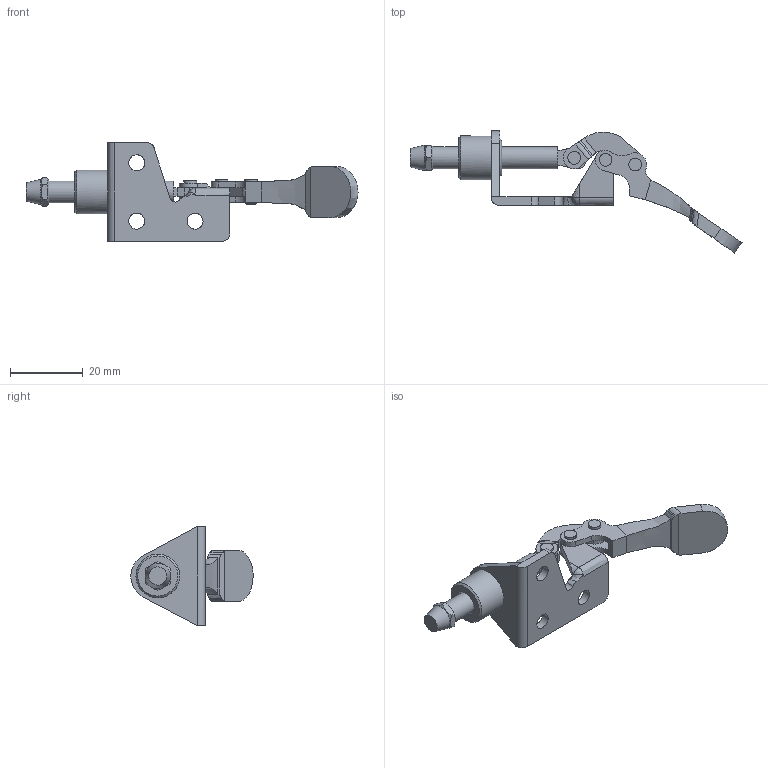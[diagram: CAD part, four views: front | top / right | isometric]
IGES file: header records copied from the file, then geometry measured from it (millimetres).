
Global section: file name: No.SL10(SL10-2S)(ul); native system: Autodesk Inventor 2020; preprocessor: unknown; author: 高橋善宗,,11,0,1; organization: 5H20160218.055430; date: 20251212.080958; units: millimetre
Bounding box: 91.15 x 33.56 x 27 mm (x, y, z)
Volume: 5930.9 mm3; surface area: 6664.4 mm2
Topology: 9 solids, 9 shells, 176 faces, 459 edges, 314 vertices
Faces by surface type: bspline 176
